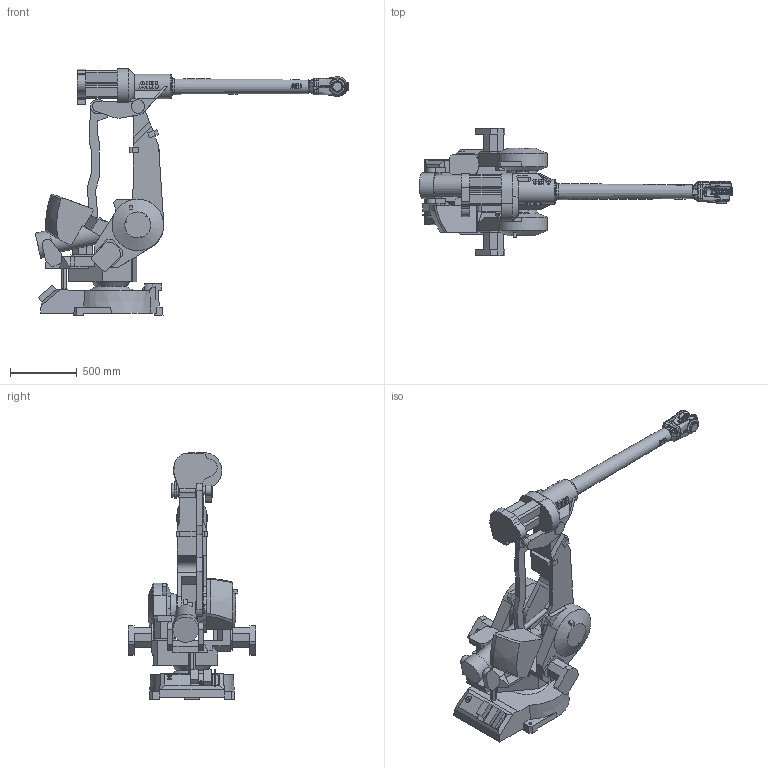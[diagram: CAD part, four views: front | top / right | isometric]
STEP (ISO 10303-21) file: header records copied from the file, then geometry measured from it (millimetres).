
FILE_DESCRIPTION(/* description */ (''),/* implementation_level */ '2;1');
FILE_NAME(/* name */ 'IRB4400_L10-253_IRC5_rev03_STEP_c.stp',/* time_stamp */ '2023-11-02T09:07:27+08:00',/* author */ ('CNPEHE'),/* organization */ (''),/* preprocessor_version */ 'ST-DEVELOPER v19.2',/* originating_system */ 'Autodesk Inventor 2023',/* authorisation */ '');
FILE_SCHEMA (('AUTOMOTIVE_DESIGN { 1 0 10303 214 3 1 1 }'));
Length unit declared in the file: millimetre
Products named in the file (17): Assembly1; IRB4400_L10-253_IRC5_rev03_BAL-A_CAD; IRB4400_L10-253_IRC5_rev03_BAL-B_CAD; IRB4400_L10-253_IRC5_rev03_BASE_CAD; IRB4400_L10-253_IRC5_rev03_LINK01_CAD; IRB4400_L10-253_IRC5_rev03_LINK02_CAD; IRB4400_L10-253_IRC5_rev03_LINK03_CAD; IRB4400_L10-253_IRC5_rev03_LINK04_CAD; IRB4400_L10-253_IRC5_rev03_LINK05_CAD; IRB4400_L10-253_IRC5_rev03_LINK06_CAD; IRB4400_L10-253_IRC5_rev03_LINKARM_CAD; IRB4400_L10-253_IRC5_rev03_LINKROD_CAD; IRB4400_L10-253_IRC5_rev03_LOGO01_CAD; IRB4400_L10-253_IRC5_rev03_LOGO02_CAD; IRB4400_L10-253_IRC5_rev03_LOGO03_CAD; IRB4400_L10-253_IRC5_rev03_LOGO04_CAD; IRB4400_L10-253_IRC5_rev03_LOGO05_CAD
Assembly tree (16 placements, depth 2):
  Assembly1
    IRB4400_L10-253_IRC5_rev03_BAL-A_CAD
    IRB4400_L10-253_IRC5_rev03_BAL-B_CAD
    IRB4400_L10-253_IRC5_rev03_BASE_CAD
    IRB4400_L10-253_IRC5_rev03_LINK01_CAD
    IRB4400_L10-253_IRC5_rev03_LINK02_CAD
    IRB4400_L10-253_IRC5_rev03_LINK03_CAD
    IRB4400_L10-253_IRC5_rev03_LINK04_CAD
    IRB4400_L10-253_IRC5_rev03_LINK05_CAD
    IRB4400_L10-253_IRC5_rev03_LINK06_CAD
    IRB4400_L10-253_IRC5_rev03_LINKARM_CAD
    IRB4400_L10-253_IRC5_rev03_LINKROD_CAD
    IRB4400_L10-253_IRC5_rev03_LOGO01_CAD
    IRB4400_L10-253_IRC5_rev03_LOGO02_CAD
    IRB4400_L10-253_IRC5_rev03_LOGO03_CAD
    IRB4400_L10-253_IRC5_rev03_LOGO04_CAD
    IRB4400_L10-253_IRC5_rev03_LOGO05_CAD
Bounding box: 2354.8 x 958.6 x 1855.1 mm (x, y, z)
Volume: 294722078.3 mm3; surface area: 8326538.5 mm2
Topology: 16 solids, 18 shells, 2152 faces, 5728 edges, 3651 vertices
Faces by surface type: plane 1218, bspline 470, cylinder 292, cone 92, torus 67, sphere 13
Full cylindrical faces by diameter (mm): 4.2 x2, 5 x6, 6 x1, 6.25 x2, 6.7 x2, 7 x9, 8 x1, 8.1 x1, 9 x6, 10.22 x9, 10.3 x2, 11.9 x3, 19 x8, 20 x1, 22 x6, 23 x1, 25 x2, 26 x2, 30 x6, 31.5 x1, 35 x5, 35.5 x1, 38 x1, 40 x4, 50 x2, 60 x2, 63 x1, 65 x1, 100 x8, 112 x2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
Entity records: 130632 total; most frequent: CARTESIAN_POINT 79702, ORIENTED_EDGE 11364, DIRECTION 9109, EDGE_CURVE 5682, VERTEX_POINT 3651, LINE 3257, VECTOR 3257, AXIS2_PLACEMENT_3D 2926
